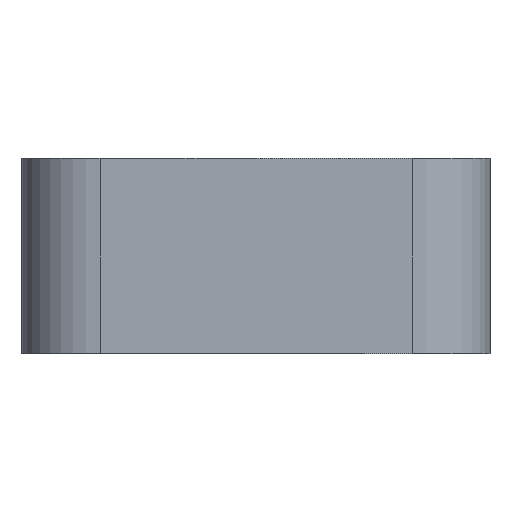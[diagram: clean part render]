
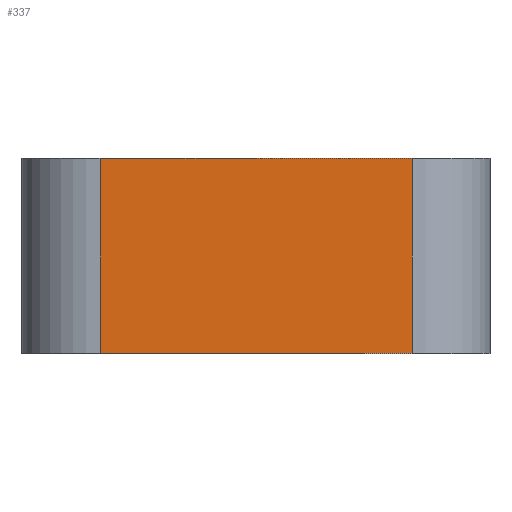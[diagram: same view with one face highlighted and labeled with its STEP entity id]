
A CAD part, front view. The second image highlights one B-rep face of the part: STEP entity #337.
In plain terms, the highlighted planar face has unit normal (0, -1, 0).
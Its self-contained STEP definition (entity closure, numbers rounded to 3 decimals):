
#16 = DIRECTION ( 'NONE',  ( 1., 0., 0. ) ) ;
#31 = CARTESIAN_POINT ( 'NONE',  ( -4., -18.5, 5. ) ) ;
#60 = EDGE_CURVE ( 'NONE', #184, #415, #154, .T. ) ;
#88 = VECTOR ( 'NONE', #308, 1000. ) ;
#93 = EDGE_CURVE ( 'NONE', #191, #196, #426, .T. ) ;
#140 = AXIS2_PLACEMENT_3D ( 'NONE', #522, #169, #284 ) ;
#154 = LINE ( 'NONE', #264, #88 ) ;
#166 = ORIENTED_EDGE ( 'NONE', *, *, #60, .F. ) ;
#169 = DIRECTION ( 'NONE',  ( 0., 1., 0. ) ) ;
#184 = VERTEX_POINT ( 'NONE', #187 ) ;
#186 = ORIENTED_EDGE ( 'NONE', *, *, #506, .F. ) ;
#187 = CARTESIAN_POINT ( 'NONE',  ( 4., -18.5, 5. ) ) ;
#191 = VERTEX_POINT ( 'NONE', #31 ) ;
#194 = CARTESIAN_POINT ( 'NONE',  ( 4., -18.5, 0. ) ) ;
#196 = VERTEX_POINT ( 'NONE', #245 ) ;
#234 = EDGE_LOOP ( 'NONE', ( #435, #166, #186, #443 ) ) ;
#243 = LINE ( 'NONE', #561, #257 ) ;
#245 = CARTESIAN_POINT ( 'NONE',  ( -4., -18.5, 0. ) ) ;
#257 = VECTOR ( 'NONE', #321, 1000. ) ;
#264 = CARTESIAN_POINT ( 'NONE',  ( 4., -18.5, 5. ) ) ;
#284 = DIRECTION ( 'NONE',  ( -1., 0., 0. ) ) ;
#308 = DIRECTION ( 'NONE',  ( 0., 0., -1. ) ) ;
#311 = VECTOR ( 'NONE', #16, 1000. ) ;
#321 = DIRECTION ( 'NONE',  ( 1., 0., 0. ) ) ;
#325 = LINE ( 'NONE', #194, #311 ) ;
#337 = ADVANCED_FACE ( 'NONE', ( #342 ), #579, .F. ) ;
#342 = FACE_OUTER_BOUND ( 'NONE', #234, .T. ) ;
#346 = DIRECTION ( 'NONE',  ( 0., 0., -1. ) ) ;
#350 = VECTOR ( 'NONE', #346, 1000. ) ;
#355 = CARTESIAN_POINT ( 'NONE',  ( -4., -18.5, 5. ) ) ;
#415 = VERTEX_POINT ( 'NONE', #568 ) ;
#418 = EDGE_CURVE ( 'NONE', #196, #415, #325, .T. ) ;
#426 = LINE ( 'NONE', #355, #350 ) ;
#435 = ORIENTED_EDGE ( 'NONE', *, *, #418, .T. ) ;
#443 = ORIENTED_EDGE ( 'NONE', *, *, #93, .T. ) ;
#506 = EDGE_CURVE ( 'NONE', #191, #184, #243, .T. ) ;
#522 = CARTESIAN_POINT ( 'NONE',  ( 4., -18.5, 5. ) ) ;
#561 = CARTESIAN_POINT ( 'NONE',  ( 4., -18.5, 5. ) ) ;
#568 = CARTESIAN_POINT ( 'NONE',  ( 4., -18.5, 0. ) ) ;
#579 = PLANE ( 'NONE',  #140 ) ;
